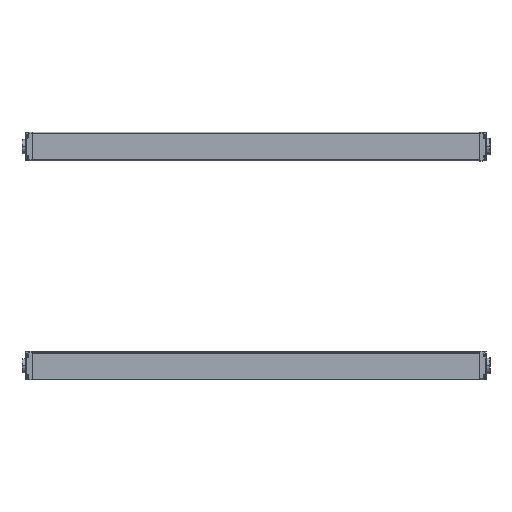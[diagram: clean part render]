
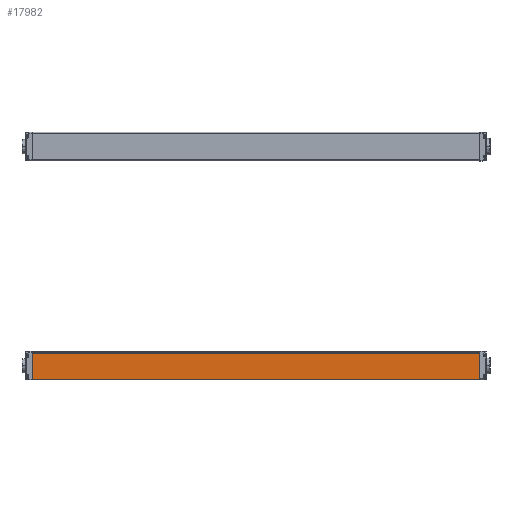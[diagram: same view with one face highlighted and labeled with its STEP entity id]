
A CAD part, left-side view. The second image highlights one B-rep face of the part: STEP entity #17982.
In plain terms, the highlighted planar face has unit normal (-1, 0, -0.009) as drawn and (1, 0, 0) by its records, which use the part's own axes.
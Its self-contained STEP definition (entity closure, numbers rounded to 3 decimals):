
#671 = VERTEX_POINT ( 'NONE', #8104 ) ;
#813 = CARTESIAN_POINT ( 'NONE',  ( 15., 0., 10.9 ) ) ;
#825 = VERTEX_POINT ( 'NONE', #11337 ) ;
#1790 = DIRECTION ( 'NONE',  ( 0., 0., -1. ) ) ;
#3262 = AXIS2_PLACEMENT_3D ( 'NONE', #16755, #4344, #9865 ) ;
#3382 = VERTEX_POINT ( 'NONE', #813 ) ;
#3652 = EDGE_LOOP ( 'NONE', ( #16812, #9331, #4277, #7730 ) ) ;
#3687 = CARTESIAN_POINT ( 'NONE',  ( 15., 470., -16.693 ) ) ;
#3900 = VECTOR ( 'NONE', #9214, 1000. ) ;
#3941 = LINE ( 'NONE', #9467, #4443 ) ;
#4277 = ORIENTED_EDGE ( 'NONE', *, *, #17749, .F. ) ;
#4299 = CARTESIAN_POINT ( 'NONE',  ( 15., 470., 10.9 ) ) ;
#4344 = DIRECTION ( 'NONE',  ( -1., 0., 0. ) ) ;
#4443 = VECTOR ( 'NONE', #14980, 1000. ) ;
#5711 = FACE_OUTER_BOUND ( 'NONE', #3652, .T. ) ;
#7492 = EDGE_CURVE ( 'NONE', #9743, #3382, #16705, .T. ) ;
#7669 = CARTESIAN_POINT ( 'NONE',  ( 15., 470., 10.9 ) ) ;
#7730 = ORIENTED_EDGE ( 'NONE', *, *, #7492, .T. ) ;
#8104 = CARTESIAN_POINT ( 'NONE',  ( 15., 470., -16.693 ) ) ;
#8667 = EDGE_CURVE ( 'NONE', #3382, #825, #3941, .T. ) ;
#8738 = LINE ( 'NONE', #14259, #16637 ) ;
#9214 = DIRECTION ( 'NONE',  ( 0., 1., 0. ) ) ;
#9331 = ORIENTED_EDGE ( 'NONE', *, *, #17439, .T. ) ;
#9467 = CARTESIAN_POINT ( 'NONE',  ( 15., 0., -16.9 ) ) ;
#9743 = VERTEX_POINT ( 'NONE', #7669 ) ;
#9820 = DIRECTION ( 'NONE',  ( 0., -1., 0. ) ) ;
#9865 = DIRECTION ( 'NONE',  ( 0., 0., 1. ) ) ;
#11226 = PLANE ( 'NONE',  #3262 ) ;
#11337 = CARTESIAN_POINT ( 'NONE',  ( 15., 0., -16.693 ) ) ;
#14259 = CARTESIAN_POINT ( 'NONE',  ( 15., 470., -16.9 ) ) ;
#14980 = DIRECTION ( 'NONE',  ( 0., 0., -1. ) ) ;
#16104 = LINE ( 'NONE', #3687, #3900 ) ;
#16637 = VECTOR ( 'NONE', #1790, 1000. ) ;
#16705 = LINE ( 'NONE', #4299, #17143 ) ;
#16755 = CARTESIAN_POINT ( 'NONE',  ( 15., 470., -16.9 ) ) ;
#16812 = ORIENTED_EDGE ( 'NONE', *, *, #8667, .T. ) ;
#17143 = VECTOR ( 'NONE', #9820, 1000. ) ;
#17439 = EDGE_CURVE ( 'NONE', #825, #671, #16104, .T. ) ;
#17749 = EDGE_CURVE ( 'NONE', #9743, #671, #8738, .T. ) ;
#17982 = ADVANCED_FACE ( 'NONE', ( #5711 ), #11226, .F. ) ;
